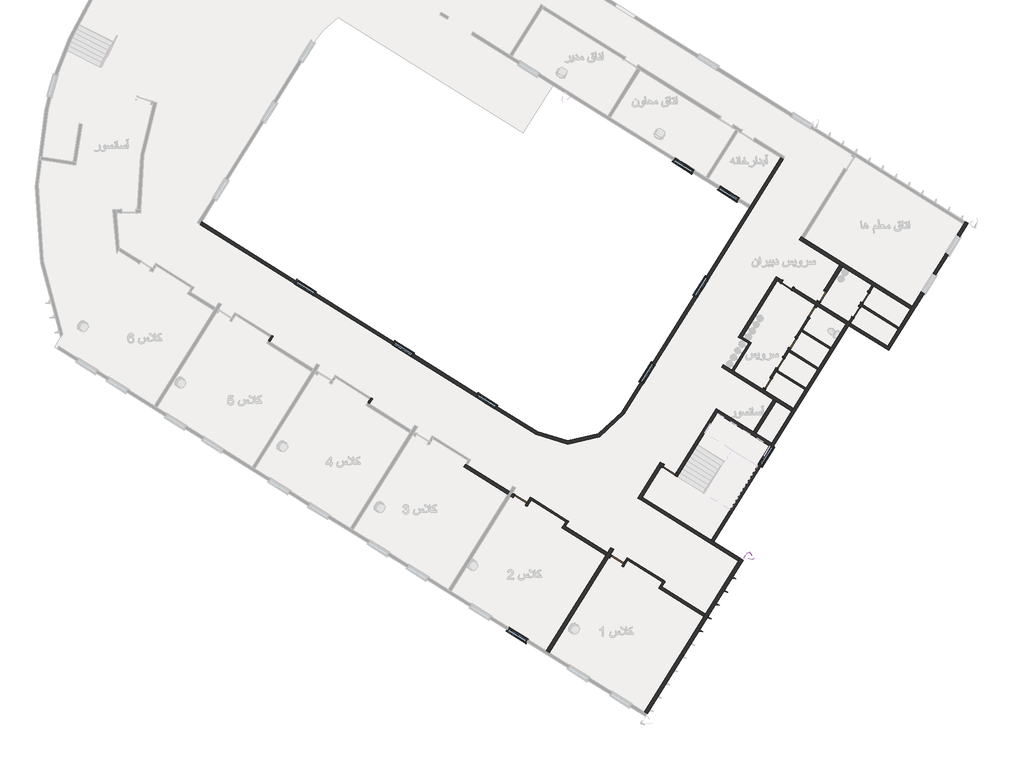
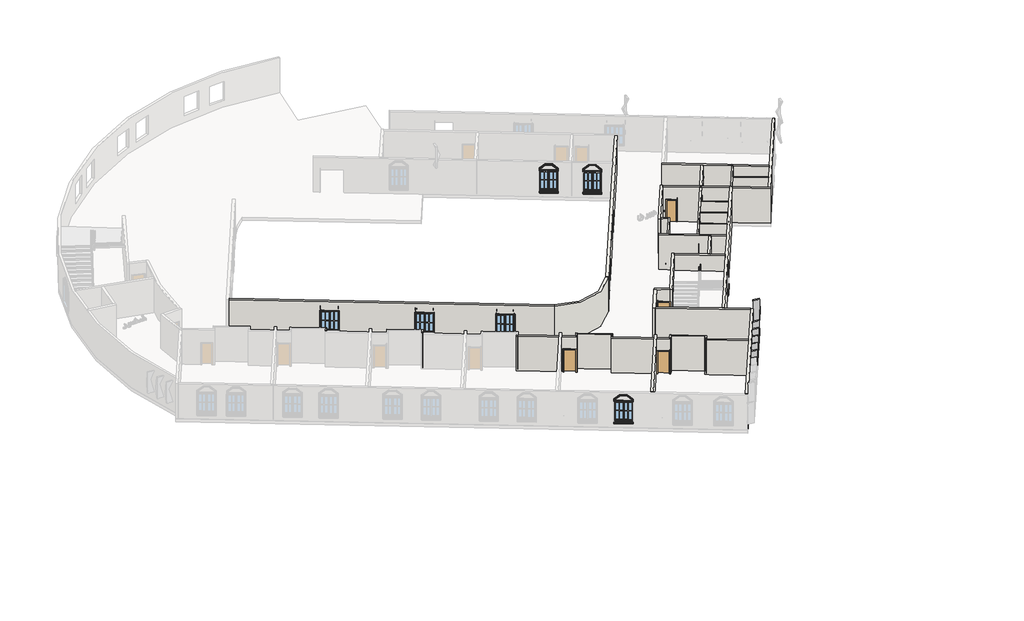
# One storey, part 2 of 12: 38 walls, 11 doors, 9 windows, 6 plates.
"""IFC4 building model written with IfcOpenShell, lengths in millimetres."""

from ifc_helpers import new_model, si_unit, point, frame, frame_2d, origin, origin_with_axes, place, context, project, spatial, polyline, circle_curve, trimmed, segment, composite_curve, outline, extrude, faceted_brep, transform, mapped, element, save
from components import m_single_flush_0762_x_2032mm_e53dc8c7, m_single_flush_0762_x_2032mm_1c354163, m_single_flush_0762_x_2032mm_0c256fab, m_single_flush_0915_x_2134mm_6a9e8738, m_single_flush_0915_x_2134mm_727434cd, plate_91021fb5, m_window_casement_double_1400_x_1800mm_877d247a, m_window_casement_double_1400_x_1800mm_eb8f2d9a

model = new_model("IFC4")

# Units and contexts
model_context = context("Model", 3, world=origin())
ifc_project = project(units=[si_unit("LENGTHUNIT", "METRE", prefix="MILLI")], contexts=[model_context])

# Site, building, storey
site = spatial("IfcSite", under=ifc_project)
building = spatial("IfcBuilding", under=site)
storey = spatial("IfcBuildingStorey", under=building, Name="\u200fهمکف", Elevation=0.0)

# Doors
placement = place(None, origin())
m_single_flush_0762_x_2032mm_shape = m_single_flush_0762_x_2032mm_e53dc8c7(model_context)
element("IfcDoor", 1, ObjectType="M_Single-Flush : 0762 x 2032mm", at=placement, inside=storey, context=model_context, shape_type="MappedRepresentation", body=[
    mapped(m_single_flush_0762_x_2032mm_shape, transform((56199.6460159, -40782.0527704, 0.0), x_axis=(-0.5299192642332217, -0.8480480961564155, 0.0), y_axis=(0.8480480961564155, -0.5299192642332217, 0.0), z_axis=(0.0, 0.0, 1.0))),
])
element("IfcDoor", 2, ObjectType="M_Single-Flush : 0762 x 2032mm", at=placement, inside=storey, context=model_context, shape_type="MappedRepresentation", body=[
    mapped(m_single_flush_0762_x_2032mm_shape, transform((52799.2588215, -41725.4772336, 0.0), x_axis=(0.5299192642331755, 0.8480480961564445, 0.0), y_axis=(-0.8480480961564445, 0.5299192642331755, 0.0), z_axis=(0.0, 0.0, 1.0))),
])
element("IfcDoor", 3, ObjectType="M_Single-Flush : 0762 x 2032mm", at=placement, inside=storey, context=model_context, shape_type="MappedRepresentation", body=[
    mapped(m_single_flush_0762_x_2032mm_shape, transform((51568.7862899, -43694.6449128, 0.0), x_axis=(-0.5299192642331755, -0.8480480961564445, 0.0), y_axis=(0.8480480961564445, -0.5299192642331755, 0.0), z_axis=(0.0, 0.0, 1.0))),
])
element("IfcDoor", 4, ObjectType="M_Single-Flush : 0762 x 2032mm", at=placement, inside=storey, context=model_context, shape_type="MappedRepresentation", body=[
    mapped(m_single_flush_0762_x_2032mm_shape, transform((50761.1893312, -44987.0702114, 0.0), x_axis=(-0.5299192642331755, -0.8480480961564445, 0.0), y_axis=(0.8480480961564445, -0.5299192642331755, 0.0), z_axis=(0.0, 0.0, 1.0))),
])
element("IfcDoor", 5, ObjectType="M_Single-Flush : 0762 x 2032mm", at=placement, inside=storey, context=model_context, shape_type="MappedRepresentation", body=[
    mapped(m_single_flush_0762_x_2032mm_shape, transform((49953.5923725, -46279.4955099, 0.0), x_axis=(-0.5299192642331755, -0.8480480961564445, 0.0), y_axis=(0.8480480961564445, -0.5299192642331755, 0.0), z_axis=(0.0, 0.0, 1.0))),
])
m_single_flush_0762_x_2032mm_2_shape = m_single_flush_0762_x_2032mm_1c354163(model_context)
element("IfcDoor", 6, ObjectType="M_Single-Flush : 0762 x 2032mm", at=placement, inside=storey, context=model_context, shape_type="MappedRepresentation", body=[
    mapped(m_single_flush_0762_x_2032mm_2_shape, transform((55624.1536949, -41703.0330029, 0.0), x_axis=(0.5299192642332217, 0.8480480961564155, 0.0), y_axis=(-0.8480480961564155, 0.5299192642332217, 0.0), z_axis=(0.0, 0.0, 1.0))),
])
m_single_flush_0762_x_2032mm_3_shape = m_single_flush_0762_x_2032mm_0c256fab(model_context)
element("IfcDoor", 7, ObjectType="M_Single-Flush : 0762 x 2032mm", at=placement, inside=storey, context=model_context, shape_type="MappedRepresentation", body=[
    mapped(m_single_flush_0762_x_2032mm_3_shape, transform((53436.3159523, -40706.1822692, 0.0), x_axis=(-0.5299192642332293, -0.8480480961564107, 0.0), y_axis=(0.8480480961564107, -0.5299192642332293, 0.0), z_axis=(0.0, 0.0, 1.0))),
])
element("IfcDoor", 8, ObjectType="M_Single-Flush : 0762 x 2032mm", at=placement, inside=storey, context=model_context, shape_type="MappedRepresentation", body=[
    mapped(m_single_flush_0762_x_2032mm_3_shape, transform((51200.5159697, -39994.2020354, 0.0), x_axis=(-0.8480480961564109, 0.5299192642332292, 0.0), y_axis=(-0.5299192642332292, -0.8480480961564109, 0.0), z_axis=(0.0, 0.0, 1.0))),
])
m_single_flush_0915_x_2134mm_shape = m_single_flush_0915_x_2134mm_6a9e8738(model_context)
element("IfcDoor", 9, ObjectType="M_Single-Flush : 0915 x 2134mm", at=placement, inside=storey, context=model_context, shape_type="MappedRepresentation", body=[
    mapped(m_single_flush_0915_x_2134mm_shape, transform((43670.1080734, -51814.6724607, 0.0), x_axis=(-0.8480480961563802, 0.5299192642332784, 0.0), y_axis=(-0.5299192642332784, -0.8480480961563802, 0.0), z_axis=(0.0, 0.0, 1.0))),
])
m_single_flush_0915_x_2134mm_2_shape = m_single_flush_0915_x_2134mm_727434cd(model_context)
element("IfcDoor", 10, ObjectType="M_Single-Flush : 0915 x 2134mm", at=placement, inside=storey, context=model_context, shape_type="MappedRepresentation", body=[
    mapped(m_single_flush_0915_x_2134mm_2_shape, transform((34111.4094095, -53741.2445417, 0.0), x_axis=(-0.8480480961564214, 0.5299192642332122, 0.0), y_axis=(-0.5299192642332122, -0.8480480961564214, 0.0), z_axis=(0.0, 0.0, 1.0))),
])
element("IfcDoor", 11, ObjectType="M_Single-Flush : 0915 x 2134mm", at=placement, inside=storey, context=model_context, shape_type="MappedRepresentation", body=[
    mapped(m_single_flush_0915_x_2134mm_2_shape, transform((40302.1605114, -57609.6551706, 0.0), x_axis=(-0.8480480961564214, 0.5299192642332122, 0.0), y_axis=(-0.5299192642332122, -0.8480480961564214, 0.0), z_axis=(0.0, 0.0, 1.0))),
])

# Plates
plate_shape = plate_91021fb5(model_context)
element("IfcPlate", 12, ObjectType="مدل پارامتریک کصینوس دار : مدل پارامتریک کصینوس دار", at=placement, inside=storey, context=model_context, shape_type="MappedRepresentation", body=[
    mapped(plate_shape, transform((45018.7240006, -63918.042282, -2050.0), x_axis=(0.0, 0.0, 1.0), y_axis=(0.5299192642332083, 0.8480480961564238, 0.0), z_axis=(-0.8480480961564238, 0.5299192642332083, 0.0))),
])
element("IfcPlate", 13, ObjectType="مدل پارامتریک کصینوس دار : مدل پارامتریک کصینوس دار", at=placement, inside=storey, context=model_context, shape_type="MappedRepresentation", body=[
    mapped(plate_shape, transform((45548.6432648, -63069.9941859, -2050.0), x_axis=(0.0, 0.0, 1.0), y_axis=(0.5299192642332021, 0.8480480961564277, 0.0), z_axis=(-0.8480480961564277, 0.5299192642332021, 0.0))),
])
element("IfcPlate", 14, ObjectType="مدل پارامتریک کصینوس دار : مدل پارامتریک کصینوس دار", at=placement, inside=storey, context=model_context, shape_type="MappedRepresentation", body=[
    mapped(plate_shape, transform((46078.5625291, -62221.9460897, -2050.0), x_axis=(0.0, 0.0, 1.0), y_axis=(0.5299192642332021, 0.8480480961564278, 0.0), z_axis=(-0.8480480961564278, 0.5299192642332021, 0.0))),
])
element("IfcPlate", 15, ObjectType="مدل پارامتریک کصینوس دار : مدل پارامتریک کصینوس دار", at=placement, inside=storey, context=model_context, shape_type="MappedRepresentation", body=[
    mapped(plate_shape, transform((46608.4817933, -61373.8979936, -2050.0), x_axis=(0.0, 0.0, 1.0), y_axis=(0.5299192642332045, 0.8480480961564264, 0.0), z_axis=(-0.8480480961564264, 0.5299192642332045, 0.0))),
])
element("IfcPlate", 16, ObjectType="مدل پارامتریک کصینوس دار : مدل پارامتریک کصینوس دار", at=placement, inside=storey, context=model_context, shape_type="MappedRepresentation", body=[
    mapped(plate_shape, transform((47138.4010575, -60525.8498974, -2050.0), x_axis=(0.0, 0.0, 1.0), y_axis=(0.5299192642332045, 0.8480480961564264, 0.0), z_axis=(-0.8480480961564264, 0.5299192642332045, 0.0))),
])
element("IfcPlate", 17, ObjectType="مدل پارامتریک کصینوس دار : مدل پارامتریک کصینوس دار", at=placement, inside=storey, context=model_context, shape_type="MappedRepresentation", body=[
    mapped(plate_shape, transform((47933.2799539, -59253.7777532, -1050.0), x_axis=(0.0, 0.0, 1.0), y_axis=(0.5299192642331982, 0.8480480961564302, 0.0), z_axis=(-0.8480480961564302, 0.5299192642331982, 0.0))),
])

# Walls
element("IfcWall", 18, ObjectType="Generic - 200mm", at=placement, inside=storey, context=model_context, shape_type="SweptSolid", body=[
    extrude(outline(polyline([(35791.6151098, -63399.1559333), (39924.9853708, -56784.3807832), (40094.5949901, -56890.3646361), (35961.2247291, -63505.1397861), (35791.6151098, -63399.1559333)])), origin_with_axes(), (0.0, 0.0, 1.0), 3300.0),
])
element("IfcWall", 19, ObjectType="Generic - 200mm", at=placement, inside=storey, context=model_context, shape_type="Brep", body=[
    faceted_brep([(42236.7806406, -67426.5423414, 0.0), (48383.4012778, -57589.8930988, 0.0), (48383.4012778, -57589.8930988, 3300.0), (42236.7806406, -67426.5423414, 3300.0), (42067.1710214, -67320.5584886, 0.0), (42067.1710214, -67320.5584886, 3300.0), (45882.5897239, -61214.6121963, 3300.0), (45988.5735767, -61045.002577, 3300.0), (48107.8078058, -57653.5188652, 3300.0), (48213.7916586, -57483.9092459, 3300.0), (48213.7916586, -57483.9092459, 0.0), (48107.8078058, -57653.5188652, 0.0), (45988.5735767, -61045.002577, 0.0), (45882.5897239, -61214.6121963, 0.0)], [[[0, 1, 2, 3]], [[4, 5, 6, 7, 8, 9, 10, 11, 12, 13]], [[1, 0, 4, 13, 12, 11, 10]], [[2, 1, 10, 9]], [[0, 3, 5, 4]], [[3, 2, 9, 8, 7, 6, 5]]]),
])
element("IfcWall", 20, ObjectType="Generic - 200mm", at=placement, inside=storey, context=model_context, shape_type="Brep", body=[
    faceted_brep([(41818.4737323, -53723.5067587, 0.0), (48107.8078058, -57653.5188652, 0.0), (48107.8078058, -57653.5188652, 3300.0), (41818.4737323, -53723.5067587, 3300.0), (41924.4575852, -53553.8971395, 0.0), (41924.4575852, -53553.8971395, 3300.0), (46334.3076852, -56309.4773135, 3300.0), (46503.9173044, -56415.4611664, 3300.0), (48213.7916586, -57483.9092459, 3300.0), (48213.7916586, -57483.9092459, 0.0), (46503.9173044, -56415.4611664, 0.0), (46334.3076852, -56309.4773135, 0.0)], [[[0, 1, 2, 3]], [[4, 5, 6, 7, 8, 9, 10, 11]], [[1, 0, 4, 11, 10, 9]], [[2, 1, 9, 8]], [[0, 3, 5, 4]], [[3, 2, 8, 7, 6, 5]]]),
])
element("IfcWall", 21, ObjectType="Generic - 200mm", at=placement, inside=storey, context=model_context, shape_type="Brep", body=[
    faceted_brep([(46503.9173044, -56415.4611664, 0.0), (55149.463009, -42579.6958529, 0.0), (55255.4468618, -42410.0862337, 0.0), (55255.4468618, -42410.0862337, 3300.0), (55149.463009, -42579.6958529, 3300.0), (46503.9173044, -56415.4611664, 3300.0), (49547.1565475, -51545.2603255, 600.0), (49547.1565475, -51545.2603255, 2400.0), (50289.0435174, -50357.9929909, 2400.0), (50289.0435174, -50357.9929909, 600.0), (55085.8372426, -42304.1023809, 0.0), (54979.8533898, -42473.7120001, 0.0), (54025.9987141, -44000.1985732, 0.0), (53960.2887254, -44105.3565371, 0.0), (53218.4017555, -45292.6238717, 0.0), (53152.6917667, -45397.7818356, 0.0), (52410.8047968, -46585.0491702, 0.0), (52345.094808, -46690.2071342, 0.0), (51603.2078381, -47877.4744688, 0.0), (51497.2239852, -48047.084088, 0.0), (50202.7183141, -50118.7262116, 0.0), (50096.7344612, -50288.3358308, 0.0), (46334.3076852, -56309.4773135, 0.0), (46334.3076852, -56309.4773135, 3300.0), (50096.7344612, -50288.3358308, 3300.0), (50202.7183141, -50118.7262116, 3300.0), (51497.2239852, -48047.084088, 3300.0), (51603.2078381, -47877.4744688, 3300.0), (52345.094808, -46690.2071342, 3300.0), (52410.8047968, -46585.0491702, 3300.0), (53152.6917667, -45397.7818356, 3300.0), (53218.4017555, -45292.6238717, 3300.0), (53960.2887254, -44105.3565371, 3300.0), (54025.9987141, -44000.1985732, 3300.0), (54979.8533898, -42473.7120001, 3300.0), (55085.8372426, -42304.1023809, 3300.0), (49377.5469283, -51439.2764726, 2400.0), (49377.5469283, -51439.2764726, 600.0), (50119.4338982, -50252.009138, 600.0), (50119.4338982, -50252.009138, 2400.0), (55150.2888979, -42344.3762449, 0.0), (55150.2888979, -42344.3762449, 3300.0)], [[[0, 1, 2, 3, 4, 5], [6, 7, 8, 9]], [[10, 11, 12, 13, 14, 15, 16, 17, 18, 19, 20, 21, 22, 23, 24, 25, 26, 27, 28, 29, 30, 31, 32, 33, 34, 35], [36, 37, 38, 39]], [[2, 1, 0, 22, 21, 20, 19, 18, 17, 16, 15, 14, 13, 12, 11, 10, 40]], [[0, 5, 23, 22]], [[3, 2, 40, 10, 35, 41]], [[5, 4, 3, 41, 35, 34, 33, 32, 31, 30, 29, 28, 27, 26, 25, 24, 23]], [[37, 36, 7, 6]], [[38, 37, 6, 9]], [[39, 38, 9, 8]], [[36, 39, 8, 7]]]),
])
element("IfcWall", 22, ObjectType="Generic - 200mm", at=placement, inside=storey, context=model_context, shape_type="Brep", body=[
    faceted_brep([(42973.6622737, -51497.4026655, 0.0), (41648.8641131, -53617.5229059, 0.0), (41648.8641131, -53617.5229059, 3300.0), (42973.6622737, -51497.4026655, 3300.0), (43143.2718929, -51603.3865184, 0.0), (43143.2718929, -51603.3865184, 3300.0), (41924.4575852, -53553.8971395, 3300.0), (41818.4737323, -53723.5067587, 3300.0), (41818.4737323, -53723.5067587, 0.0), (41924.4575852, -53553.8971395, 0.0)], [[[0, 1, 2, 3]], [[4, 5, 6, 7, 8, 9]], [[1, 0, 4, 9, 8]], [[0, 3, 5, 4]], [[2, 1, 8, 7]], [[3, 2, 7, 6, 5]]]),
])
element("IfcWall", 23, ObjectType="Generic - 200mm", at=placement, inside=storey, context=model_context, shape_type="Brep", body=[
    faceted_brep([(42973.6622737, -51497.4026655, 3300.0), (42973.6622737, -51497.4026655, 0.0), (43143.2718929, -51603.3865184, 0.0), (43229.134143, -51657.0392069, 0.0), (43229.134143, -51657.0392069, 2134.0), (44005.0981509, -52141.9153337, 2134.0), (44005.0981509, -52141.9153337, 3300.0), (43143.2718929, -51603.3865184, 3300.0), (43079.6461265, -51327.7930463, 0.0), (43079.6461265, -51327.7930463, 3300.0), (44111.0820038, -51972.3057144, 3300.0), (44111.0820038, -51972.3057144, 2134.0), (43335.1179958, -51487.4295877, 2134.0), (43335.1179958, -51487.4295877, 0.0)], [[[0, 1, 2, 3, 4, 5, 6, 7]], [[8, 9, 10, 11, 12, 13]], [[1, 8, 13, 3, 2]], [[1, 0, 9, 8]], [[10, 6, 5, 11]], [[12, 4, 3, 13]], [[4, 12, 11, 5]], [[0, 7, 6, 10, 9]]]),
])
element("IfcWall", 24, ObjectType="Generic - 200mm", at=placement, inside=storey, context=model_context, shape_type="Brep", body=[
    faceted_brep([(44005.0981509, -52141.9153337, 3300.0), (44111.0820038, -51972.3057144, 3300.0), (46654.6944721, -47901.6748529, 3300.0), (46654.6944721, -47901.6748529, 0.0), (44111.0820038, -51972.3057144, 0.0), (44005.0981509, -52141.9153337, 0.0), (44005.0981509, -52141.9153337, 2134.0), (44174.7077702, -52247.8991865, 0.0), (46718.3202385, -48177.268325, 0.0), (46824.3040913, -48007.6587057, 0.0), (46824.3040913, -48007.6587057, 3300.0), (46718.3202385, -48177.268325, 3300.0), (44174.7077702, -52247.8991865, 3300.0)], [[[0, 1, 2, 3, 4, 5, 6]], [[7, 8, 9, 10, 11, 12]], [[9, 8, 7, 5, 4, 3]], [[5, 7, 12, 0, 6]], [[2, 1, 0, 12, 11, 10]], [[3, 2, 10, 9]]]),
])
element("IfcWall", 25, ObjectType="Generic - 200mm", at=placement, inside=storey, context=model_context, shape_type="Brep", body=[
    faceted_brep([(46718.3202385, -48177.268325, 0.0), (50096.7344612, -50288.3358308, 0.0), (50096.7344612, -50288.3358308, 3300.0), (46718.3202385, -48177.268325, 3300.0), (46824.3040913, -48007.6587057, 0.0), (46824.3040913, -48007.6587057, 3300.0), (49029.2291413, -49385.4487928, 3300.0), (49198.8387606, -49491.4326456, 3300.0), (50202.7183141, -50118.7262116, 3300.0), (50202.7183141, -50118.7262116, 0.0), (49198.8387606, -49491.4326456, 0.0), (49029.2291413, -49385.4487928, 0.0)], [[[0, 1, 2, 3]], [[4, 5, 6, 7, 8, 9, 10, 11]], [[1, 0, 4, 11, 10, 9]], [[2, 1, 9, 8]], [[3, 2, 8, 7, 6, 5]], [[0, 3, 5, 4]]]),
])
element("IfcWall", 26, ObjectType="Generic - 200mm", at=placement, inside=storey, context=model_context, shape_type="SweptSolid", body=[
    extrude(outline(polyline([(49029.2291413, -49385.4487928), (50323.7348125, -47313.8066692), (50493.3444317, -47419.790522), (49198.8387606, -49491.4326456), (49029.2291413, -49385.4487928)])), origin_with_axes(), (0.0, 0.0, 1.0), 3300.0),
])
element("IfcWall", 27, ObjectType="Generic - 200mm", at=placement, inside=storey, context=model_context, shape_type="Brep", body=[
    faceted_brep([(47002.5690756, -45238.5119876, 0.0), (50323.7348125, -47313.8066692, 0.0), (50493.3444317, -47419.790522, 0.0), (51497.2239852, -48047.084088, 0.0), (51497.2239852, -48047.084088, 3300.0), (50493.3444317, -47419.790522, 3300.0), (50323.7348125, -47313.8066692, 3300.0), (47002.5690756, -45238.5119876, 3300.0), (47108.5529284, -45068.9023684, 0.0), (47108.5529284, -45068.9023684, 3300.0), (47670.529572, -45420.0643494, 3300.0), (47775.6877021, -45485.774442, 3300.0), (49646.1222245, -46654.5516498, 3300.0), (49751.2801884, -46720.2616386, 3300.0), (51603.2078381, -47877.4744688, 3300.0), (51603.2078381, -47877.4744688, 0.0), (49751.2801884, -46720.2616386, 0.0), (49646.1222245, -46654.5516498, 0.0), (47775.6877021, -45485.774442, 0.0), (47670.529572, -45420.0643494, 0.0)], [[[0, 1, 2, 3, 4, 5, 6, 7]], [[8, 9, 10, 11, 12, 13, 14, 15, 16, 17, 18, 19]], [[3, 2, 1, 0, 8, 19, 18, 17, 16, 15]], [[0, 7, 9, 8]], [[4, 3, 15, 14]], [[7, 6, 5, 4, 14, 13, 12, 11, 10, 9]]]),
])
element("IfcWall", 28, ObjectType="Generic - 200mm", at=placement, inside=storey, context=model_context, shape_type="Brep", body=[
    faceted_brep([(50506.3775234, -39442.538354, 0.0), (48083.7478596, -43319.5562559, 0.0), (48083.7478596, -43319.5562559, 3300.0), (50506.3775234, -39442.538354, 3300.0), (50675.9871426, -39548.5222068, 0.0), (50675.9871426, -39548.5222068, 3300.0), (50570.0032897, -39718.1318261, 3300.0), (48319.25596, -43320.0804941, 3300.0), (48253.5458674, -43425.2386241, 3300.0), (48253.5458674, -43425.2386241, 0.0), (48319.25596, -43320.0804941, 0.0), (50570.0032897, -39718.1318261, 0.0)], [[[0, 1, 2, 3]], [[4, 5, 6, 7, 8, 9, 10, 11]], [[1, 0, 4, 11, 10, 9]], [[0, 3, 5, 4]], [[2, 1, 9, 8]], [[3, 2, 8, 7, 6, 5]]]),
])
element("IfcWall", 29, ObjectType="Generic - 200mm", at=placement, inside=storey, context=model_context, shape_type="Brep", body=[
    faceted_brep([(50930.4015714, -39707.4979861, 2032.0), (50930.4015714, -39707.4979861, 0.0), (50675.9871426, -39548.5222068, 0.0), (50675.9871426, -39548.5222068, 3300.0), (53096.6199766, -41061.1014771, 3300.0), (53266.2295959, -41167.0853299, 3300.0), (55085.8372426, -42304.1023809, 3300.0), (55085.8372426, -42304.1023809, 0.0), (53266.2295959, -41167.0853299, 0.0), (53096.6199766, -41061.1014771, 0.0), (51576.6142207, -40111.2964655, 0.0), (51576.6142207, -40111.2964655, 2032.0), (50570.0032897, -39718.1318261, 0.0), (50824.4177186, -39877.1076053, 0.0), (50824.4177186, -39877.1076053, 2032.0), (51470.6303679, -40280.9060847, 2032.0), (51470.6303679, -40280.9060847, 0.0), (53022.7677762, -41250.7891811, 0.0), (53127.9257401, -41316.4991699, 0.0), (54979.8533898, -42473.7120001, 0.0), (54979.8533898, -42473.7120001, 3300.0), (53127.9257401, -41316.4991699, 3300.0), (53022.7677762, -41250.7891811, 3300.0), (50570.0032897, -39718.1318261, 3300.0)], [[[0, 1, 2, 3, 4, 5, 6, 7, 8, 9, 10, 11]], [[12, 13, 14, 15, 16, 17, 18, 19, 20, 21, 22, 23]], [[2, 1, 13, 12]], [[10, 9, 8, 7, 19, 18, 17, 16]], [[7, 6, 20, 19]], [[3, 2, 12, 23]], [[14, 13, 1, 0]], [[15, 14, 0, 11]], [[16, 15, 11, 10]], [[6, 5, 4, 3, 23, 22, 21, 20]]]),
])
element("IfcWall", 30, ObjectType="Generic - 200mm", at=placement, inside=storey, context=model_context, shape_type="SweptSolid", body=[
    extrude(outline(polyline([(-2799.9999999, 0.0), (-2700.0, 0.0), (-2700.0, -2032.0), (-1938.0, -2032.0), (-1938.0, 0.0), (0.0, 0.0), (0.0, -3300.0), (-2799.9999999, -3300.0), (-2799.9999999, 0.0)])), frame((54750.0035357, -38792.5506607, 0.0), z_axis=(-0.8480480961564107, 0.5299192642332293, 0.0), x_axis=(0.5299192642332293, 0.8480480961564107, 0.0)), (0.0, 0.0, 1.0), 200.0),
])
element("IfcWall", 31, ObjectType="Generic - 200mm", at=placement, inside=storey, context=model_context, shape_type="Brep", body=[
    faceted_brep([(51990.1514632, -37068.0036848, 0.0), (54580.3939165, -38686.5668078, 0.0), (54750.0035357, -38792.5506607, 0.0), (56634.0628378, -39969.8415757, 0.0), (56739.2208017, -40035.5515645, 0.0), (59113.7554709, -41519.3255043, 0.0), (59113.7554709, -41519.3255043, 3300.0), (56739.2208017, -40035.5515645, 3300.0), (56634.0628378, -39969.8415757, 3300.0), (54750.0035357, -38792.5506607, 3300.0), (54580.3939165, -38686.5668078, 3300.0), (51990.1514632, -37068.0036848, 3300.0), (52096.1353161, -36898.3940655, 0.0), (52096.1353161, -36898.3940655, 3300.0), (52265.7449353, -37004.3779184, 3300.0), (59219.7393238, -41349.7158851, 3300.0), (59219.7393238, -41349.7158851, 0.0), (52265.7449353, -37004.3779184, 0.0)], [[[0, 1, 2, 3, 4, 5, 6, 7, 8, 9, 10, 11]], [[12, 13, 14, 15, 16, 17]], [[5, 4, 3, 2, 1, 0, 12, 17, 16]], [[0, 11, 13, 12]], [[6, 5, 16, 15]], [[11, 10, 9, 8, 7, 6, 15, 14, 13]]]),
])
element("IfcWall", 32, ObjectType="Generic - 200mm", at=placement, inside=storey, context=model_context, shape_type="Brep", body=[
    faceted_brep([(55149.463009, -42579.6958529, 0.0), (57693.6072975, -44169.4536456, 0.0), (57693.6072975, -44169.4536456, 3300.0), (55149.463009, -42579.6958529, 3300.0), (55255.4468618, -42410.0862337, 0.0), (55255.4468618, -42410.0862337, 3300.0), (57629.9815311, -43893.8601736, 3300.0), (57799.5911503, -43999.8440264, 3300.0), (57799.5911503, -43999.8440264, 0.0), (57629.9815311, -43893.8601736, 0.0)], [[[0, 1, 2, 3]], [[4, 5, 6, 7, 8, 9]], [[1, 0, 4, 9, 8]], [[2, 1, 8, 7]], [[0, 3, 5, 4]], [[3, 2, 7, 6, 5]]]),
])
element("IfcWall", 33, ObjectType="Generic - 200mm", at=placement, inside=storey, context=model_context, shape_type="Brep", body=[
    faceted_brep([(57799.5911503, -43999.8440264, 0.0), (62780.8322341, -36028.1919225, 0.0), (62780.8322341, -36028.1919225, 3300.0), (57799.5911503, -43999.8440264, 3300.0), (59972.2601337, -40522.8468322, 2400.0), (60714.1471036, -39335.5794975, 2400.0), (60714.1471036, -39335.5794975, 600.0), (59972.2601337, -40522.8468322, 600.0), (61509.0259999, -38063.5073533, 2400.0), (62250.9129699, -36876.2400187, 2400.0), (62250.9129699, -36876.2400187, 600.0), (61509.0259999, -38063.5073533, 600.0), (57629.9815311, -43893.8601736, 0.0), (57629.9815311, -43893.8601736, 3300.0), (58306.1585122, -42811.7508029, 3300.0), (58371.868501, -42706.5928389, 3300.0), (59113.7554709, -41519.3255043, 3300.0), (59219.7393238, -41349.7158851, 3300.0), (62505.238762, -36091.8176889, 3300.0), (62611.2226149, -35922.2080697, 3300.0), (62611.2226149, -35922.2080697, 0.0), (62505.238762, -36091.8176889, 0.0), (59219.7393238, -41349.7158851, 0.0), (59113.7554709, -41519.3255043, 0.0), (58371.868501, -42706.5928389, 0.0), (58306.1585122, -42811.7508029, 0.0), (59802.6505144, -40416.8629793, 2400.0), (59802.6505144, -40416.8629793, 600.0), (60544.5374844, -39229.5956447, 600.0), (60544.5374844, -39229.5956447, 2400.0), (61339.4163807, -37957.5235005, 2400.0), (61339.4163807, -37957.5235005, 600.0), (62081.3033506, -36770.2561658, 600.0), (62081.3033506, -36770.2561658, 2400.0)], [[[0, 1, 2, 3], [4, 5, 6, 7], [8, 9, 10, 11]], [[12, 13, 14, 15, 16, 17, 18, 19, 20, 21, 22, 23, 24, 25], [26, 27, 28, 29], [30, 31, 32, 33]], [[1, 0, 12, 25, 24, 23, 22, 21, 20]], [[0, 3, 13, 12]], [[2, 1, 20, 19]], [[3, 2, 19, 18, 17, 16, 15, 14, 13]], [[27, 26, 4, 7]], [[28, 27, 7, 6]], [[29, 28, 6, 5]], [[26, 29, 5, 4]], [[31, 30, 8, 11]], [[32, 31, 11, 10]], [[33, 32, 10, 9]], [[30, 33, 9, 8]]]),
])
element("IfcWall", 34, ObjectType="Generic - 200mm", at=placement, inside=storey, context=model_context, shape_type="Brep", body=[
    faceted_brep([(40771.4554917, -48228.1825254, 0.0), (50950.8715211, -31937.7115681, 0.0), (50950.8715211, -31937.7115681, 3300.0), (40771.4554917, -48228.1825254, 3300.0), (45439.7111731, -40757.4117681, 2400.0), (46181.598143, -39570.1444335, 2400.0), (46181.598143, -39570.1444335, 600.0), (45439.7111731, -40757.4117681, 600.0), (41990.2697995, -46277.6719043, 2400.0), (42732.1567694, -45090.4045697, 2400.0), (42732.1567694, -45090.4045697, 600.0), (41990.2697995, -46277.6719043, 600.0), (40601.8458725, -48122.1986726, 0.0), (40601.8458725, -48122.1986726, 3300.0), (48767.5686978, -35054.3104807, 3300.0), (48873.5525507, -34884.7008614, 3300.0), (50781.2619019, -31831.7277153, 3300.0), (50781.2619019, -31831.7277153, 0.0), (48873.5525507, -34884.7008614, 0.0), (48767.5686978, -35054.3104807, 0.0), (45270.1015539, -40651.4279153, 2400.0), (45270.1015539, -40651.4279153, 600.0), (46011.9885238, -39464.1605807, 600.0), (46011.9885238, -39464.1605807, 2400.0), (41820.6601803, -46171.6880514, 2400.0), (41820.6601803, -46171.6880514, 600.0), (42562.5471502, -44984.4207168, 600.0), (42562.5471502, -44984.4207168, 2400.0)], [[[0, 1, 2, 3], [4, 5, 6, 7], [8, 9, 10, 11]], [[12, 13, 14, 15, 16, 17, 18, 19], [20, 21, 22, 23], [24, 25, 26, 27]], [[1, 0, 12, 19, 18, 17]], [[0, 3, 13, 12]], [[2, 1, 17, 16]], [[3, 2, 16, 15, 14, 13]], [[21, 20, 4, 7]], [[22, 21, 7, 6]], [[23, 22, 6, 5]], [[20, 23, 5, 4]], [[25, 24, 8, 11]], [[26, 25, 11, 10]], [[27, 26, 10, 9]], [[24, 27, 9, 8]]]),
])
element("IfcWall", 35, ObjectType="Generic - 200mm", at=placement, inside=storey, context=model_context, shape_type="SweptSolid", body=[
    extrude(outline(polyline([(200.0000001, 0.0), (25546.8423947, 0.0), (25546.8423947, -3300.0), (200.0000001, -3300.0), (200.0000001, 0.0)]), holes=[polyline([(21046.8423947, -2400.0), (22446.8423946, -2400.0), (22446.8423946, -600.0), (21046.8423947, -600.0), (21046.8423947, -2400.0)]), polyline([(14746.8423946, -2400.0), (16146.8423947, -2400.0), (16146.8423947, -600.0), (14746.8423946, -600.0), (14746.8423946, -2400.0)]), polyline([(7346.8423946, -2400.0), (8746.8423946, -2400.0), (8746.8423946, -600.0), (7346.8423946, -600.0), (7346.8423946, -2400.0)])]), frame((13454.385545, -35998.6719733, 0.0), z_axis=(0.5299192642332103, 0.8480480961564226, 0.0), x_axis=(0.8480480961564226, -0.5299192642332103, 0.0)), (0.0, 0.0, 1.0), 200.0),
])
element("IfcWall", 36, ObjectType="Generic - 200mm", at=placement, inside=storey, context=model_context, shape_type="Brep", body=[
    faceted_brep([(30513.1524171, -51610.7218672, 0.0), (33670.4354791, -53583.6112879, 0.0), (33670.4354791, -53583.6112879, 2134.0), (34446.3994871, -54068.4874147, 2134.0), (34446.3994871, -54068.4874147, 0.0), (34551.557451, -54134.1974035, 0.0), (34551.557451, -54134.1974035, 3300.0), (30513.1524171, -51610.7218672, 3300.0), (33776.4193319, -53414.0016687, 2134.0), (33776.4193319, -53414.0016687, 0.0), (30724.2942339, -51506.8222367, 0.0), (30619.1362699, -51441.1122479, 0.0), (30619.1362699, -51441.1122479, 3300.0), (30724.2942339, -51506.8222367, 3300.0), (34552.3833399, -53898.8777955, 3300.0), (34657.5413038, -53964.5877842, 3300.0), (34657.5413038, -53964.5877842, 0.0), (34552.3833399, -53898.8777955, 0.0), (34552.3833399, -53898.8777955, 2134.0)], [[[0, 1, 2, 3, 4, 5, 6, 7]], [[8, 9, 10, 11, 12, 13, 14, 15, 16, 17, 18]], [[11, 10, 9, 1, 0]], [[17, 16, 5, 4]], [[6, 5, 16, 15]], [[0, 7, 12, 11]], [[2, 1, 9, 8]], [[3, 2, 8, 18]], [[4, 3, 18, 17]], [[7, 6, 15, 14, 13, 12]]]),
])
element("IfcWall", 37, ObjectType="Generic - 200mm", at=placement, inside=storey, context=model_context, shape_type="Brep", body=[
    faceted_brep([(36788.7083286, -55532.1244225, 0.0), (39861.186581, -57452.0219168, 0.0), (39861.186581, -57452.0219168, 2134.0), (40637.150589, -57936.8980436, 2134.0), (40637.150589, -57936.8980436, 0.0), (40742.3085529, -58002.6080324, 0.0), (40742.3085529, -58002.6080324, 3300.0), (36788.7083286, -55532.1244225, 3300.0), (39967.1704339, -57282.4122976, 2134.0), (39967.1704339, -57282.4122976, 0.0), (36999.8501454, -55428.224792, 0.0), (36894.6921815, -55362.5148033, 0.0), (36894.6921815, -55362.5148033, 3300.0), (36999.8501454, -55428.224792, 3300.0), (40743.1344419, -57767.2884244, 3300.0), (40848.2924058, -57832.9984131, 3300.0), (40848.2924058, -57832.9984131, 0.0), (40743.1344419, -57767.2884244, 0.0), (40743.1344419, -57767.2884244, 2134.0)], [[[0, 1, 2, 3, 4, 5, 6, 7]], [[8, 9, 10, 11, 12, 13, 14, 15, 16, 17, 18]], [[11, 10, 9, 1, 0]], [[17, 16, 5, 4]], [[6, 5, 16, 15]], [[0, 7, 12, 11]], [[2, 1, 9, 8]], [[3, 2, 8, 18]], [[4, 3, 18, 17]], [[7, 6, 15, 14, 13, 12]]]),
])
element("IfcWall", 38, ObjectType="Generic - 200mm", at=placement, inside=storey, context=model_context, shape_type="Brep", body=[
    faceted_brep([(42979.4594306, -59400.5350514, 0.0), (45882.5897239, -61214.6121963, 0.0), (45882.5897239, -61214.6121963, 3300.0), (42979.4594306, -59400.5350514, 3300.0), (45988.5735767, -61045.002577, 0.0), (43190.6012474, -59296.6354209, 0.0), (43085.4432834, -59230.9254322, 0.0), (43085.4432834, -59230.9254322, 3300.0), (43190.6012474, -59296.6354209, 3300.0), (45988.5735767, -61045.002577, 3300.0)], [[[0, 1, 2, 3]], [[4, 5, 6, 7, 8, 9]], [[1, 0, 6, 5, 4]], [[2, 1, 4, 9]], [[0, 3, 7, 6]], [[3, 2, 9, 8, 7]]]),
])
element("IfcWall", 39, ObjectType="Generic - 200mm", at=placement, inside=storey, context=model_context, shape_type="SweptSolid", body=[
    extrude(outline(composite_curve([segment(polyline([(40601.7823405, -48122.2954181), (40771.5144819, -48228.0829419)]), True, "CONTINUOUS"), segment(trimmed(circle_curve(frame_2d((37292.0055839, -46059.4387043)), 4100.0), [point((40771.5144819, -48228.0829419))], [point((35119.3366006, -49536.4358986))], False, "CARTESIAN"), True, "CONTINUOUS"), segment(polyline([(35119.3366006, -49536.4358986), (35225.3204534, -49366.8262793)]), True, "CONTINUOUS"), segment(trimmed(circle_curve(frame_2d((37292.0055839, -46059.4387043)), 3900.0), [point((35225.3204534, -49366.8262793))], [point((40601.7823405, -48122.2954181))], True, "CARTESIAN"), True, "CONTINUOUS")], self_intersect=False)), origin_with_axes(), (0.0, 0.0, 1.0), 3300.0),
])
element("IfcWall", 40, ObjectType="Interior - Blockwork 100", at=placement, inside=storey, context=model_context, shape_type="Brep", body=[
    faceted_brep([(43297.4109891, -58891.7061937, 0.0), (43296.8603828, -58892.587348, 0.0), (43231.1503941, -58997.7453119, 0.0), (43085.4432834, -59230.9254322, 0.0), (43085.4432834, -59230.9254322, 3300.0), (43231.1503941, -58997.7453119, 3300.0), (43296.8603828, -58892.587348, 3300.0), (43297.4109891, -58891.7061937, 3300.0), (43402.5689531, -58957.4161825, 0.0), (43402.5689531, -58957.4161825, 3300.0), (43190.6012474, -59296.6354209, 3300.0), (43190.6012474, -59296.6354209, 0.0)], [[[0, 1, 2, 3, 4, 5, 6, 7]], [[8, 9, 10, 11]], [[3, 2, 1, 0, 8, 11]], [[0, 7, 9, 8]], [[4, 3, 11, 10]], [[7, 6, 5, 4, 10, 9]]]),
])
element("IfcWall", 41, ObjectType="Interior - Blockwork 100", at=placement, inside=storey, context=model_context, shape_type="SweptSolid", body=[
    extrude(outline(polyline([(43231.1503941, -58997.7453119), (40993.9995164, -57599.8182928), (41059.7095052, -57494.6603289), (43296.8603828, -58892.587348), (43231.1503941, -58997.7453119)])), origin_with_axes(), (0.0, 0.0, 1.0), 3300.0),
])
element("IfcWall", 42, ObjectType="Interior - Blockwork 100", at=placement, inside=storey, context=model_context, shape_type="Brep", body=[
    faceted_brep([(40954.5515413, -57428.9503402, 0.0), (40743.1344419, -57767.2884244, 0.0), (40743.1344419, -57767.2884244, 3300.0), (40954.5515413, -57428.9503402, 3300.0), (41059.7095052, -57494.6603289, 0.0), (41059.7095052, -57494.6603289, 3300.0), (40993.9995164, -57599.8182928, 3300.0), (40848.2924058, -57832.9984131, 3300.0), (40848.2924058, -57832.9984131, 0.0), (40993.9995164, -57599.8182928, 0.0)], [[[0, 1, 2, 3]], [[4, 5, 6, 7, 8, 9]], [[1, 0, 4, 9, 8]], [[0, 3, 5, 4]], [[2, 1, 8, 7]], [[3, 2, 7, 6, 5]]]),
])
element("IfcWall", 43, ObjectType="Interior - Blockwork 100", at=placement, inside=storey, context=model_context, shape_type="Brep", body=[
    faceted_brep([(37106.6598872, -55023.2955648, 0.0), (37106.1092809, -55024.1767191, 0.0), (37040.3992921, -55129.334683, 0.0), (36894.6921815, -55362.5148033, 0.0), (36894.6921815, -55362.5148033, 3300.0), (37040.3992921, -55129.334683, 3300.0), (37106.1092809, -55024.1767191, 3300.0), (37106.6598872, -55023.2955648, 3300.0), (37211.8178511, -55089.0055536, 0.0), (37211.8178511, -55089.0055536, 3300.0), (36999.8501454, -55428.224792, 3300.0), (36999.8501454, -55428.224792, 0.0)], [[[0, 1, 2, 3, 4, 5, 6, 7]], [[8, 9, 10, 11]], [[3, 2, 1, 0, 8, 11]], [[0, 7, 9, 8]], [[4, 3, 11, 10]], [[7, 6, 5, 4, 10, 9]]]),
])
element("IfcWall", 44, ObjectType="Interior - Blockwork 100", at=placement, inside=storey, context=model_context, shape_type="SweptSolid", body=[
    extrude(outline(polyline([(37040.3992921, -55129.334683), (34803.2484145, -53731.4076639), (34868.9584032, -53626.2497), (37106.1092809, -55024.1767191), (37040.3992921, -55129.334683)])), origin_with_axes(), (0.0, 0.0, 1.0), 3300.0),
])
element("IfcWall", 45, ObjectType="Interior - Blockwork 100", at=placement, inside=storey, context=model_context, shape_type="Brep", body=[
    faceted_brep([(34763.8004393, -53560.5397113, 0.0), (34552.3833399, -53898.8777955, 0.0), (34552.3833399, -53898.8777955, 3300.0), (34763.8004393, -53560.5397113, 3300.0), (34868.9584032, -53626.2497, 0.0), (34868.9584032, -53626.2497, 3300.0), (34803.2484145, -53731.4076639, 3300.0), (34657.5413038, -53964.5877842, 3300.0), (34657.5413038, -53964.5877842, 0.0), (34803.2484145, -53731.4076639, 0.0)], [[[0, 1, 2, 3]], [[4, 5, 6, 7, 8, 9]], [[1, 0, 4, 9, 8]], [[0, 3, 5, 4]], [[2, 1, 8, 7]], [[3, 2, 7, 6, 5]]]),
])
element("IfcWall", 46, ObjectType="Interior - Blockwork 100", at=placement, inside=storey, context=model_context, shape_type="Brep", body=[
    faceted_brep([(24555.5480641, -47180.4904542, 0.0), (24554.9974578, -47181.3716084, 0.0), (24489.287469, -47286.5295723, 0.0), (24343.5803584, -47519.7096926, 0.0), (24343.5803584, -47519.7096926, 3300.0), (24489.287469, -47286.5295723, 3300.0), (24554.9974578, -47181.3716084, 3300.0), (24555.5480641, -47180.4904542, 3300.0), (24660.706028, -47246.2004429, 0.0), (24660.706028, -47246.2004429, 3300.0), (24448.7383223, -47585.4196814, 3300.0), (24448.7383223, -47585.4196814, 0.0)], [[[0, 1, 2, 3, 4, 5, 6, 7]], [[8, 9, 10, 11]], [[3, 2, 1, 0, 8, 11]], [[0, 7, 9, 8]], [[4, 3, 11, 10]], [[7, 6, 5, 4, 10, 9]]]),
])
element("IfcWall", 47, ObjectType="Interior - Blockwork 100", at=placement, inside=storey, context=model_context, shape_type="Brep", body=[
    faceted_brep([(18195.1873429, -43206.0959724, 0.0), (18194.6367366, -43206.9771267, 0.0), (18128.9267478, -43312.1350906, 0.0), (17983.2196372, -43545.3152109, 0.0), (17983.2196372, -43545.3152109, 3300.0), (18128.9267478, -43312.1350906, 3300.0), (18194.6367366, -43206.9771267, 3300.0), (18195.1873429, -43206.0959724, 3300.0), (18300.3453068, -43271.8059612, 0.0), (18300.3453068, -43271.8059612, 3300.0), (18088.3776011, -43611.0251996, 3300.0), (18088.3776011, -43611.0251996, 0.0)], [[[0, 1, 2, 3, 4, 5, 6, 7]], [[8, 9, 10, 11]], [[3, 2, 1, 0, 8, 11]], [[0, 7, 9, 8]], [[4, 3, 11, 10]], [[7, 6, 5, 4, 10, 9]]]),
])
element("IfcWall", 48, ObjectType="Interior - Blockwork 100", at=placement, inside=storey, context=model_context, shape_type="Brep", body=[
    faceted_brep([(48794.4586114, -43614.2672705, 0.0), (48793.749979, -43615.4058178, 0.0), (48728.2270142, -43720.6804163, 0.0), (47670.529572, -45420.0643494, 0.0), (47670.529572, -45420.0643494, 3300.0), (48728.2270142, -43720.6804163, 3300.0), (48793.749979, -43615.4058178, 3300.0), (48794.4586114, -43614.2672705, 3300.0), (48899.7332099, -43679.7902352, 0.0), (48899.7332099, -43679.7902352, 3300.0), (47775.6877021, -45485.774442, 3300.0), (47775.6877021, -45485.774442, 0.0)], [[[0, 1, 2, 3, 4, 5, 6, 7]], [[8, 9, 10, 11]], [[3, 2, 1, 0, 8, 11]], [[0, 7, 9, 8]], [[4, 3, 11, 10]], [[7, 6, 5, 4, 10, 9]]]),
])
element("IfcWall", 49, ObjectType="Interior - Blockwork 100", at=placement, inside=storey, context=model_context, shape_type="SweptSolid", body=[
    extrude(outline(polyline([(48319.25596, -43320.0804941), (48793.749979, -43615.4058178), (48728.2270142, -43720.6804163), (48253.5458674, -43425.2386241), (48319.25596, -43320.0804941)])), origin_with_axes(), (0.0, 0.0, 1.0), 3300.0),
])
element("IfcWall", 50, ObjectType="Interior - Blockwork 100", at=placement, inside=storey, context=model_context, shape_type="SweptSolid", body=[
    extrude(outline(polyline([(50558.8771471, -45427.83634), (52410.8047968, -46585.0491702), (52345.094808, -46690.2071342), (50493.1671583, -45532.9943039), (50558.8771471, -45427.83634)])), origin_with_axes(), (0.0, 0.0, 1.0), 3300.0),
])
element("IfcWall", 51, ObjectType="Interior - Blockwork 100", at=placement, inside=storey, context=model_context, shape_type="Brep", body=[
    faceted_brep([(49699.1141509, -46569.7468402, 2032.0), (49699.1141509, -46569.7468402, 0.0), (49646.1222245, -46654.5516498, 0.0), (49646.1222245, -46654.5516498, 3300.0), (53022.7677762, -41250.7891811, 3300.0), (53022.7677762, -41250.7891811, 0.0), (52948.5790792, -41369.5159146, 0.0), (52948.5790792, -41369.5159146, 2032.0), (52544.7805998, -42015.7285638, 2032.0), (52544.7805998, -42015.7285638, 0.0), (51718.1065476, -43338.6835938, 0.0), (51718.1065476, -43338.6835938, 2032.0), (51314.3080683, -43984.8962431, 2032.0), (51314.3080683, -43984.8962431, 0.0), (50910.5095889, -44631.1088924, 0.0), (50910.5095889, -44631.1088924, 2032.0), (50506.7111096, -45277.3215416, 2032.0), (50506.7111096, -45277.3215416, 0.0), (50102.9126303, -45923.5341909, 0.0), (50102.9126303, -45923.5341909, 2032.0), (49751.2801884, -46720.2616386, 0.0), (49804.2721148, -46635.456829, 0.0), (49804.2721148, -46635.456829, 2032.0), (50208.0705942, -45989.2441797, 2032.0), (50208.0705942, -45989.2441797, 0.0), (50493.1671583, -45532.9943039, 0.0), (50558.8771471, -45427.83634, 0.0), (50611.8690735, -45343.0315304, 0.0), (50611.8690735, -45343.0315304, 2032.0), (51015.6675529, -44696.8188811, 2032.0), (51015.6675529, -44696.8188811, 0.0), (51300.764117, -44240.5690054, 0.0), (51366.4741058, -44135.4110415, 0.0), (51419.4660322, -44050.6062319, 0.0), (51419.4660322, -44050.6062319, 2032.0), (51823.2645116, -43404.3935826, 2032.0), (51823.2645116, -43404.3935826, 0.0), (52108.3610757, -42948.1437069, 0.0), (52174.0710645, -42842.9857429, 0.0), (52649.9385638, -42081.4385526, 0.0), (52649.9385638, -42081.4385526, 2032.0), (53053.7370431, -41435.2259033, 2032.0), (53053.7370431, -41435.2259033, 0.0), (53127.9257401, -41316.4991699, 0.0), (53127.9257401, -41316.4991699, 3300.0), (52174.0710645, -42842.9857429, 3300.0), (52108.3610757, -42948.1437069, 3300.0), (51366.4741058, -44135.4110415, 3300.0), (51300.764117, -44240.5690054, 3300.0), (50558.8771471, -45427.83634, 3300.0), (50493.1671583, -45532.9943039, 3300.0), (49751.2801884, -46720.2616386, 3300.0)], [[[0, 1, 2, 3, 4, 5, 6, 7, 8, 9, 10, 11, 12, 13, 14, 15, 16, 17, 18, 19]], [[20, 21, 22, 23, 24, 25, 26, 27, 28, 29, 30, 31, 32, 33, 34, 35, 36, 37, 38, 39, 40, 41, 42, 43, 44, 45, 46, 47, 48, 49, 50, 51]], [[43, 42, 6, 5]], [[10, 9, 39, 38, 37, 36]], [[14, 13, 33, 32, 31, 30]], [[18, 17, 27, 26, 25, 24]], [[2, 1, 21, 20]], [[3, 2, 20, 51]], [[5, 4, 44, 43]], [[7, 6, 42, 41]], [[8, 7, 41, 40]], [[9, 8, 40, 39]], [[34, 33, 13, 12]], [[35, 34, 12, 11]], [[36, 35, 11, 10]], [[28, 27, 17, 16]], [[29, 28, 16, 15]], [[30, 29, 15, 14]], [[22, 21, 1, 0]], [[23, 22, 0, 19]], [[24, 23, 19, 18]], [[4, 3, 51, 50, 49, 48, 47, 46, 45, 44]]]),
])
element("IfcWall", 52, ObjectType="Interior - Blockwork 100", at=placement, inside=storey, context=model_context, shape_type="SweptSolid", body=[
    extrude(outline(polyline([(53152.6917667, -45397.7818356), (51300.764117, -44240.5690054), (51366.4741058, -44135.4110415), (53218.4017555, -45292.6238717), (53152.6917667, -45397.7818356)])), origin_with_axes(), (0.0, 0.0, 1.0), 3300.0),
])
element("IfcWall", 53, ObjectType="Interior - Blockwork 100", at=placement, inside=storey, context=model_context, shape_type="SweptSolid", body=[
    extrude(outline(polyline([(52174.0710645, -42842.9857429), (54025.9987141, -44000.1985732), (53960.2887254, -44105.3565371), (52108.3610757, -42948.1437069), (52174.0710645, -42842.9857429)])), origin_with_axes(), (0.0, 0.0, 1.0), 3300.0),
])
element("IfcWall", 54, ObjectType="Interior - Blockwork 100", at=placement, inside=storey, context=model_context, shape_type="Brep", body=[
    faceted_brep([(55945.1677943, -41072.3041007, 0.0), (55773.4739527, -41347.0716839, 0.0), (55773.4739527, -41347.0716839, 2032.0), (55369.6754733, -41993.2843331, 2032.0), (55369.6754733, -41993.2843331, 0.0), (55150.2888979, -42344.3762449, 0.0), (55150.2888979, -42344.3762449, 3300.0), (56634.0628378, -39969.8415757, 3300.0), (56634.0628378, -39969.8415757, 0.0), (56348.9662736, -40426.0914514, 0.0), (56348.9662736, -40426.0914514, 2032.0), (55945.1677943, -41072.3041007, 2032.0), (55878.6319166, -41412.7816726, 2032.0), (55878.6319166, -41412.7816726, 0.0), (55931.623843, -41327.976863, 0.0), (55997.3338318, -41222.8188991, 0.0), (56050.3257582, -41138.0140895, 0.0), (56050.3257582, -41138.0140895, 2032.0), (56454.1242375, -40491.8014402, 2032.0), (56454.1242375, -40491.8014402, 0.0), (56739.2208017, -40035.5515645, 0.0), (56739.2208017, -40035.5515645, 3300.0), (55997.3338318, -41222.8188991, 3300.0), (55931.623843, -41327.976863, 3300.0), (55255.4468618, -42410.0862337, 3300.0), (55255.4468618, -42410.0862337, 0.0), (55474.8334372, -42058.9943219, 0.0), (55474.8334372, -42058.9943219, 2032.0)], [[[0, 1, 2, 3, 4, 5, 6, 7, 8, 9, 10, 11]], [[12, 13, 14, 15, 16, 17, 18, 19, 20, 21, 22, 23, 24, 25, 26, 27]], [[9, 8, 20, 19]], [[26, 25, 5, 4]], [[16, 15, 14, 13, 1, 0]], [[8, 7, 21, 20]], [[6, 5, 25, 24]], [[17, 16, 0, 11]], [[18, 17, 11, 10]], [[19, 18, 10, 9]], [[2, 1, 13, 12]], [[3, 2, 12, 27]], [[4, 3, 27, 26]], [[7, 6, 24, 23, 22, 21]]]),
])
element("IfcWall", 55, ObjectType="Interior - Blockwork 100", at=placement, inside=storey, context=model_context, shape_type="SweptSolid", body=[
    extrude(outline(polyline([(55997.3338318, -41222.8188991), (58371.868501, -42706.5928389), (58306.1585122, -42811.7508029), (55931.623843, -41327.976863), (55997.3338318, -41222.8188991)])), origin_with_axes(), (0.0, 0.0, 1.0), 3300.0),
])

# Windows
m_window_casement_double_1400_x_1800mm_shape = m_window_casement_double_1400_x_1800mm_877d247a(model_context)
element("IfcWindow", 56, ObjectType="M_Window-Casement-Double : 1400 x 1800mm", at=placement, inside=storey, context=model_context, shape_type="MappedRepresentation", body=[
    mapped(m_window_casement_double_1400_x_1800mm_shape, transform((33957.7221815, -62371.130288, -300.0), x_axis=(0.8480480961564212, -0.5299192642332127, 0.0), y_axis=(0.5299192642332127, 0.8480480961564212, 0.0), z_axis=(0.0, 0.0, 1.0))),
])
element("IfcWindow", 57, ObjectType="M_Window-Casement-Double : 1400 x 1800mm", at=placement, inside=storey, context=model_context, shape_type="MappedRepresentation", body=[
    mapped(m_window_casement_double_1400_x_1800mm_shape, transform((45725.8498485, -40110.7861744, -300.0), x_axis=(-0.5299192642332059, -0.8480480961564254, 0.0), y_axis=(0.8480480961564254, -0.5299192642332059, 0.0), z_axis=(0.0, 0.0, 1.0))),
])
element("IfcWindow", 58, ObjectType="M_Window-Casement-Double : 1400 x 1800mm", at=placement, inside=storey, context=model_context, shape_type="MappedRepresentation", body=[
    mapped(m_window_casement_double_1400_x_1800mm_shape, transform((42276.4084748, -45631.0463105, -300.0), x_axis=(-0.5299192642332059, -0.8480480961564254, 0.0), y_axis=(0.8480480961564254, -0.5299192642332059, 0.0), z_axis=(0.0, 0.0, 1.0))),
])
element("IfcWindow", 59, ObjectType="M_Window-Casement-Double : 1400 x 1800mm", at=placement, inside=storey, context=model_context, shape_type="MappedRepresentation", body=[
    mapped(m_window_casement_double_1400_x_1800mm_shape, transform((31949.7457616, -47437.9378849, -300.0), x_axis=(-0.8480480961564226, 0.5299192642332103, 0.0), y_axis=(-0.5299192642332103, -0.8480480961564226, 0.0), z_axis=(0.0, 0.0, 1.0))),
])
element("IfcWindow", 60, ObjectType="M_Window-Casement-Double : 1400 x 1800mm", at=placement, inside=storey, context=model_context, shape_type="MappedRepresentation", body=[
    mapped(m_window_casement_double_1400_x_1800mm_shape, transform((26607.0427558, -44099.4465202, -300.0), x_axis=(-0.8480480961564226, 0.5299192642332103, 0.0), y_axis=(-0.5299192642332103, -0.8480480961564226, 0.0), z_axis=(0.0, 0.0, 1.0))),
])
element("IfcWindow", 61, ObjectType="M_Window-Casement-Double : 1400 x 1800mm", at=placement, inside=storey, context=model_context, shape_type="MappedRepresentation", body=[
    mapped(m_window_casement_double_1400_x_1800mm_shape, transform((20331.4868443, -40178.0439649, -300.0), x_axis=(-0.8480480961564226, 0.5299192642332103, 0.0), y_axis=(-0.5299192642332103, -0.8480480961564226, 0.0), z_axis=(0.0, 0.0, 1.0))),
])
m_window_casement_double_1400_x_1800mm_2_shape = m_window_casement_double_1400_x_1800mm_eb8f2d9a(model_context)
element("IfcWindow", 62, ObjectType="M_Window-Casement-Double : 1400 x 1800mm", at=placement, inside=storey, context=model_context, shape_type="MappedRepresentation", body=[
    mapped(m_window_casement_double_1400_x_1800mm_2_shape, transform((47463.6836704, -34121.6348483, -300.0), x_axis=(-0.8480480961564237, 0.5299192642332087, 0.0), y_axis=(-0.5299192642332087, -0.8480480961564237, 0.0), z_axis=(0.0, 0.0, 1.0))),
])
element("IfcWindow", 63, ObjectType="M_Window-Casement-Double : 1400 x 1800mm", at=placement, inside=storey, context=model_context, shape_type="MappedRepresentation", body=[
    mapped(m_window_casement_double_1400_x_1800mm_2_shape, transform((44580.3201435, -32319.9093499, -300.0), x_axis=(-0.8480480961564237, 0.5299192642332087, 0.0), y_axis=(-0.5299192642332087, -0.8480480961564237, 0.0), z_axis=(0.0, 0.0, 1.0))),
])
element("IfcWindow", 64, ObjectType="M_Window-Casement-Double : 1400 x 1800mm", at=placement, inside=storey, context=model_context, shape_type="MappedRepresentation", body=[
    mapped(m_window_casement_double_1400_x_1800mm_2_shape, transform((49833.2952229, -50898.6347318, -300.0), x_axis=(-0.5299192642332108, -0.8480480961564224, 0.0), y_axis=(0.8480480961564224, -0.5299192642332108, 0.0), z_axis=(0.0, 0.0, 1.0))),
])

save(model, "model.ifc")
